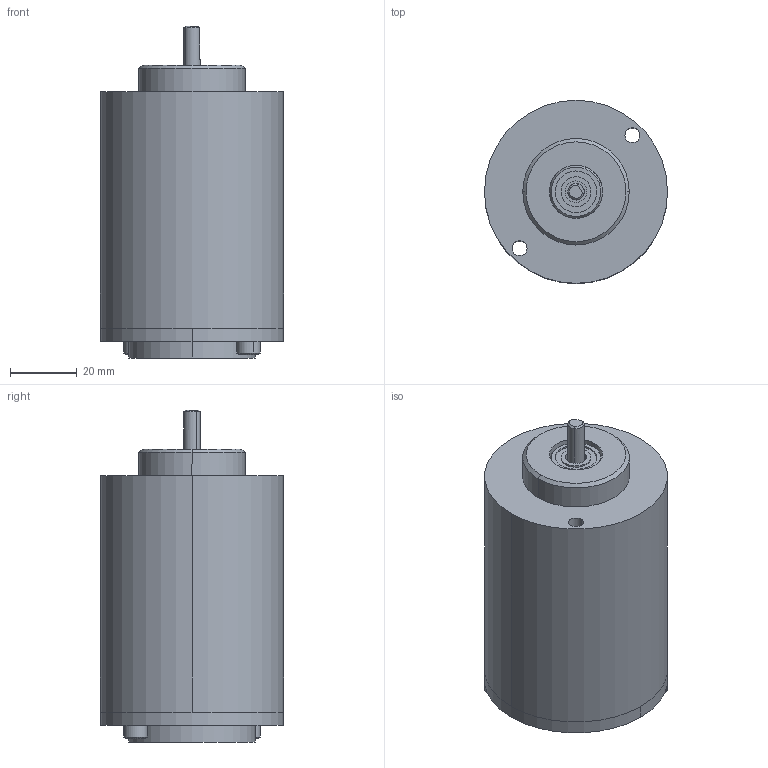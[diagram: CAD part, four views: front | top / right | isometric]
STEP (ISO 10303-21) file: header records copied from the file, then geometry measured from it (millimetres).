
FILE_DESCRIPTION (( 'STEP AP203' ), '1' );
FILE_NAME ('PC100.STEP', '2013-06-28T15:11:14', ( '' ), ( '' ), 'SwSTEP 2.0', 'SolidWorks 2013', '' );
FILE_SCHEMA (( 'CONFIG_CONTROL_DESIGN' ));
Length unit declared in the file: millimetre
Products named in the file (1): PC100
Bounding box: 55 x 55 x 99.75 mm (x, y, z)
Surface area: 24126.4 mm2 (no closed solid volume)
Topology: 0 solids, 6 shells, 88 faces, 280 edges, 199 vertices
Faces by surface type: plane 35, cylinder 34, cone 14, bspline 5
Entity records: 3572 total; most frequent: CARTESIAN_POINT 1003, DIRECTION 528, ORIENTED_EDGE 458, EDGE_CURVE 276, VERTEX_POINT 199, AXIS2_PLACEMENT_3D 198, LINE 132, VECTOR 132
